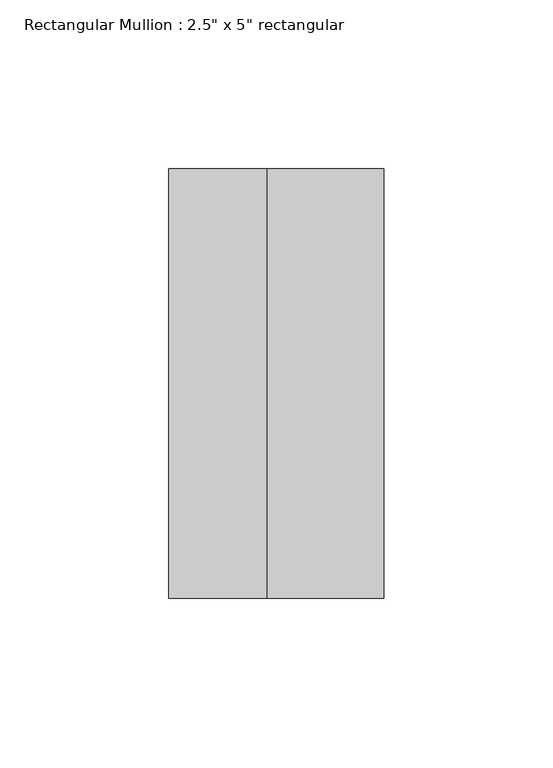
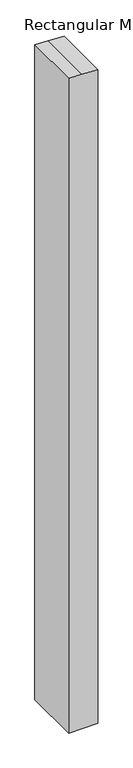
"""IFC4 building model written with IfcOpenShell, lengths in millimetres: member geometry."""

from ifc_helpers import new_model, si_unit, frame, origin, place, context, project, spatial, polyline, outline, extrude, source, transform, mapped, element, save


def member_93773332(model_context):
    return source(origin(), model_context, "Body", "SweptSolid", [
        extrude(outline(polyline([(-64.8775557, 31.75), (-63.4449853, -2.6426951), (-62.232569, -31.75), (-1569.0440789, -31.75), (-1569.0440789, 31.75), (-64.8775557, 31.75)])), frame((0.0, -63.5, 0.0), z_axis=(0.0, 1.0, 0.0), x_axis=(0.0, 0.0, 1.0)), (0.0, 0.0, 1.0), 127.0),
    ])


if __name__ == "__main__":
    model = new_model("IFC4")
    model_context = context("Model", 3, world=origin())
    ifc_project = project(units=[si_unit("LENGTHUNIT", "METRE", prefix="MILLI")], contexts=[model_context])
    site = spatial("IfcSite", under=ifc_project)
    building = spatial("IfcBuilding", under=site)
    placement = place(None, origin())
    member_shape = member_93773332(model_context)
    element("IfcMember", 1, ObjectType="Rectangular Mullion : 2.5\" x 5\" rectangular", at=placement, inside=building, context=model_context, shape_type="MappedRepresentation", body=[
        mapped(member_shape, transform((0.0, 0.0, 0.0), x_axis=(1.0, 0.0, 0.0), y_axis=(0.0, 1.0, 0.0), z_axis=(0.0, 0.0, 1.0))),
    ])
    save(model, "model.ifc")
